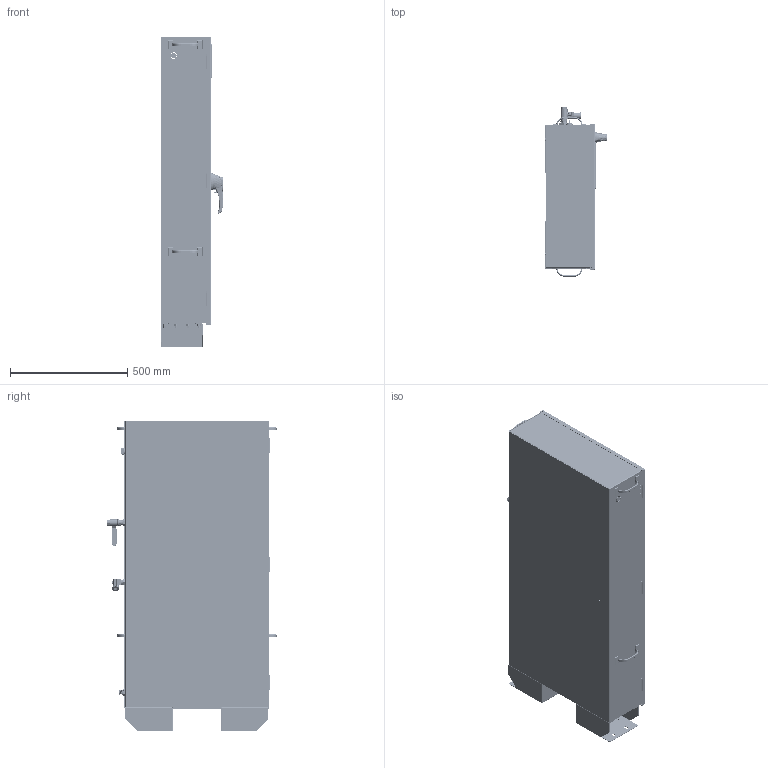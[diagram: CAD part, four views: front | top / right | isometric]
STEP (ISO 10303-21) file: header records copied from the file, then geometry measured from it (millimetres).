
FILE_DESCRIPTION(/* description */ (''),/* implementation_level */ '2;1');
FILE_NAME(/* name */ 'AG-6500.stp',/* time_stamp */ '2023-08-14T13:27:07-05:00',/* author */ ('atroll'),/* organization */ (''),/* preprocessor_version */ 'ST-DEVELOPER v19.2',/* originating_system */ 'Autodesk Inventor 2023',/* authorisation */ '');
FILE_SCHEMA (('AUTOMOTIVE_DESIGN { 1 0 10303 214 3 1 1 }'));
Products named in the file (1): AG-6500_Simplified
Bounding box: 266 x 721.55 x 1325.84 mm (x, y, z)
Volume: 7394184.3 mm3; surface area: 6961602.5 mm2
Topology: 10 solids, 70 shells, 6922 faces, 20556 edges, 13788 vertices
Faces by surface type: plane 3435, cylinder 1424, bspline 1216, cone 564, torus 190, sphere 93
Full cylindrical faces by diameter (mm): 0.5 x8, 1 x20, 2 x2, 2.286 x8, 2.54 x4, 2.8 x4, 3 x3, 3.175 x5, 3.3 x1, 3.302 x4, 3.5 x7, 3.683 x1, 3.7 x1, 3.8 x2, 4.1 x3, 4.318 x2, 4.826 x4, 5 x1, 5.105 x4, 5.156 x4, 6 x2, 6.096 x2, 6.35 x7, 6.553 x6, 6.6 x2, 7 x1, 7.057 x11, 7.137 x4, 7.2 x2, 7.785 x10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
Entity records: 329046 total; most frequent: CARTESIAN_POINT 146140, ORIENTED_EDGE 38273, DIRECTION 32484, EDGE_CURVE 20517, VERTEX_POINT 13788, LINE 12072, VECTOR 12072, AXIS2_PLACEMENT_3D 10206
